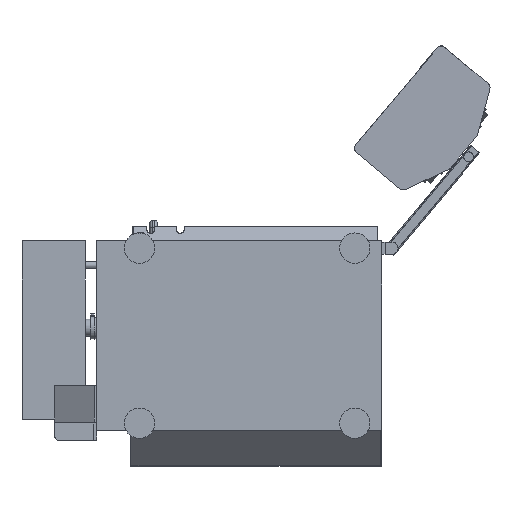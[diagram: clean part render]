
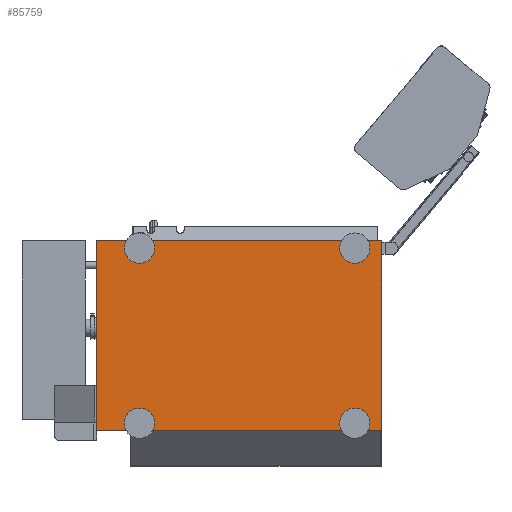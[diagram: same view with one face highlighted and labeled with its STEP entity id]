
A CAD part, front view. The second image highlights one B-rep face of the part: STEP entity #85759.
In plain terms, the highlighted planar face has unit normal (0, -1, 0).
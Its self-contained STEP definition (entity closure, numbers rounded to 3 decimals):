
#102 = CARTESIAN_POINT ( 'NONE',  ( -585., 94., -390. ) ) ;
#984 = VERTEX_POINT ( 'NONE', #51189 ) ;
#1999 = ORIENTED_EDGE ( 'NONE', *, *, #74220, .F. ) ;
#3167 = EDGE_CURVE ( 'NONE', #25639, #63284, #73688, .T. ) ;
#3369 = CARTESIAN_POINT ( 'NONE',  ( -410., 94., 360. ) ) ;
#4002 = CARTESIAN_POINT ( 'NONE',  ( -410., 94., -360. ) ) ;
#4260 = VERTEX_POINT ( 'NONE', #80539 ) ;
#4423 = DIRECTION ( 'NONE',  ( 0., 0., 1. ) ) ;
#5884 = CARTESIAN_POINT ( 'NONE',  ( -410., 94., -331. ) ) ;
#6790 = DIRECTION ( 'NONE',  ( 0., -1., 0. ) ) ;
#8930 = EDGE_LOOP ( 'NONE', ( #65463, #76995, #91438, #1999 ) ) ;
#9138 = CARTESIAN_POINT ( 'NONE',  ( 475., 94., -360. ) ) ;
#10404 = DIRECTION ( 'NONE',  ( 0., 0., 1. ) ) ;
#10487 = CARTESIAN_POINT ( 'NONE',  ( -410., 94., 360. ) ) ;
#11383 = CARTESIAN_POINT ( 'NONE',  ( -585., 94., -390. ) ) ;
#11547 = DIRECTION ( 'NONE',  ( 0., 0., 1. ) ) ;
#11625 = EDGE_CURVE ( 'NONE', #4260, #61724, #19315, .T. ) ;
#15501 = VECTOR ( 'NONE', #32680, 1000. ) ;
#16441 = FACE_BOUND ( 'NONE', #94680, .T. ) ;
#16965 = FACE_BOUND ( 'NONE', #85277, .T. ) ;
#19315 = LINE ( 'NONE', #11383, #92854 ) ;
#20280 = CARTESIAN_POINT ( 'NONE',  ( 475., 94., -360. ) ) ;
#21996 = DIRECTION ( 'NONE',  ( 0., -1., 0. ) ) ;
#22295 = VERTEX_POINT ( 'NONE', #45385 ) ;
#23547 = CIRCLE ( 'NONE', #86659, 29. ) ;
#24932 = DIRECTION ( 'NONE',  ( 0., 0., 1. ) ) ;
#25062 = AXIS2_PLACEMENT_3D ( 'NONE', #9138, #73693, #99253 ) ;
#25119 = EDGE_CURVE ( 'NONE', #86744, #92978, #60548, .T. ) ;
#25639 = VERTEX_POINT ( 'NONE', #58061 ) ;
#25646 = ORIENTED_EDGE ( 'NONE', *, *, #27639, .F. ) ;
#26918 = EDGE_CURVE ( 'NONE', #48193, #73378, #71349, .T. ) ;
#26922 = EDGE_CURVE ( 'NONE', #63284, #25639, #93105, .T. ) ;
#26945 = DIRECTION ( 'NONE',  ( 0., 0., 1. ) ) ;
#27639 = EDGE_CURVE ( 'NONE', #37105, #984, #60826, .T. ) ;
#29053 = CARTESIAN_POINT ( 'NONE',  ( 585., 94., 390. ) ) ;
#29464 = DIRECTION ( 'NONE',  ( 0., -1., 0. ) ) ;
#29916 = EDGE_CURVE ( 'NONE', #984, #37105, #23547, .T. ) ;
#30574 = EDGE_LOOP ( 'NONE', ( #80603, #84502 ) ) ;
#30797 = DIRECTION ( 'NONE',  ( 0., 0., 1. ) ) ;
#31978 = DIRECTION ( 'NONE',  ( 1., 0., 0. ) ) ;
#32680 = DIRECTION ( 'NONE',  ( 1., 0., 0. ) ) ;
#36902 = EDGE_CURVE ( 'NONE', #92978, #86744, #89906, .T. ) ;
#37081 = DIRECTION ( 'NONE',  ( 0., -1., 0. ) ) ;
#37105 = VERTEX_POINT ( 'NONE', #52298 ) ;
#37886 = AXIS2_PLACEMENT_3D ( 'NONE', #4002, #37081, #11547 ) ;
#38709 = CARTESIAN_POINT ( 'NONE',  ( -410., 94., 331. ) ) ;
#38951 = AXIS2_PLACEMENT_3D ( 'NONE', #89025, #49434, #24932 ) ;
#39351 = DIRECTION ( 'NONE',  ( 0., 0., 1. ) ) ;
#40105 = CARTESIAN_POINT ( 'NONE',  ( 475., 94., 360. ) ) ;
#42309 = EDGE_CURVE ( 'NONE', #22295, #61268, #85777, .T. ) ;
#45385 = CARTESIAN_POINT ( 'NONE',  ( -410., 94., 389. ) ) ;
#46827 = ORIENTED_EDGE ( 'NONE', *, *, #3167, .F. ) ;
#48193 = VERTEX_POINT ( 'NONE', #58124 ) ;
#49434 = DIRECTION ( 'NONE',  ( 0., 1., 0. ) ) ;
#50148 = ORIENTED_EDGE ( 'NONE', *, *, #79205, .F. ) ;
#50825 = DIRECTION ( 'NONE',  ( 0., -1., 0. ) ) ;
#51189 = CARTESIAN_POINT ( 'NONE',  ( 475., 94., -331. ) ) ;
#52298 = CARTESIAN_POINT ( 'NONE',  ( 475., 94., -389. ) ) ;
#52343 = DIRECTION ( 'NONE',  ( 0., 0., 1. ) ) ;
#54793 = CARTESIAN_POINT ( 'NONE',  ( 585., 94., -390. ) ) ;
#54935 = AXIS2_PLACEMENT_3D ( 'NONE', #3369, #50825, #10404 ) ;
#56941 = PLANE ( 'NONE',  #38951 ) ;
#57528 = ORIENTED_EDGE ( 'NONE', *, *, #29916, .F. ) ;
#58061 = CARTESIAN_POINT ( 'NONE',  ( -410., 94., -389. ) ) ;
#58124 = CARTESIAN_POINT ( 'NONE',  ( 585., 94., -390. ) ) ;
#60548 = CIRCLE ( 'NONE', #87929, 29. ) ;
#60826 = CIRCLE ( 'NONE', #25062, 29. ) ;
#61268 = VERTEX_POINT ( 'NONE', #38709 ) ;
#61656 = CARTESIAN_POINT ( 'NONE',  ( -585., 94., 390. ) ) ;
#61724 = VERTEX_POINT ( 'NONE', #61656 ) ;
#62610 = CARTESIAN_POINT ( 'NONE',  ( 475., 94., 389. ) ) ;
#63284 = VERTEX_POINT ( 'NONE', #5884 ) ;
#63587 = DIRECTION ( 'NONE',  ( 0., 0., 1. ) ) ;
#64439 = FACE_BOUND ( 'NONE', #92137, .T. ) ;
#64956 = FACE_OUTER_BOUND ( 'NONE', #8930, .T. ) ;
#65463 = ORIENTED_EDGE ( 'NONE', *, *, #11625, .F. ) ;
#65827 = AXIS2_PLACEMENT_3D ( 'NONE', #70318, #6790, #30797 ) ;
#65953 = AXIS2_PLACEMENT_3D ( 'NONE', #71072, #29464, #4423 ) ;
#66956 = DIRECTION ( 'NONE',  ( 0., -1., 0. ) ) ;
#67549 = VECTOR ( 'NONE', #39351, 1000. ) ;
#70318 = CARTESIAN_POINT ( 'NONE',  ( -410., 94., -360. ) ) ;
#70798 = ORIENTED_EDGE ( 'NONE', *, *, #26922, .F. ) ;
#71072 = CARTESIAN_POINT ( 'NONE',  ( 475., 94., 360. ) ) ;
#71349 = LINE ( 'NONE', #54793, #67549 ) ;
#73238 = LINE ( 'NONE', #102, #15501 ) ;
#73378 = VERTEX_POINT ( 'NONE', #29053 ) ;
#73688 = CIRCLE ( 'NONE', #37886, 29. ) ;
#73693 = DIRECTION ( 'NONE',  ( 0., -1., 0. ) ) ;
#74144 = VECTOR ( 'NONE', #31978, 1000. ) ;
#74220 = EDGE_CURVE ( 'NONE', #61724, #73378, #86999, .T. ) ;
#76995 = ORIENTED_EDGE ( 'NONE', *, *, #97618, .T. ) ;
#79205 = EDGE_CURVE ( 'NONE', #61268, #22295, #90771, .T. ) ;
#80539 = CARTESIAN_POINT ( 'NONE',  ( -585., 94., -390. ) ) ;
#80603 = ORIENTED_EDGE ( 'NONE', *, *, #25119, .F. ) ;
#82337 = AXIS2_PLACEMENT_3D ( 'NONE', #10487, #66956, #26945 ) ;
#84502 = ORIENTED_EDGE ( 'NONE', *, *, #36902, .F. ) ;
#85277 = EDGE_LOOP ( 'NONE', ( #50148, #87630 ) ) ;
#85759 = ADVANCED_FACE ( 'NONE', ( #16965, #64439, #16441, #102487, #64956 ), #56941, .F. ) ;
#85777 = CIRCLE ( 'NONE', #82337, 29. ) ;
#86659 = AXIS2_PLACEMENT_3D ( 'NONE', #20280, #101887, #94938 ) ;
#86744 = VERTEX_POINT ( 'NONE', #99866 ) ;
#86999 = LINE ( 'NONE', #103497, #74144 ) ;
#87630 = ORIENTED_EDGE ( 'NONE', *, *, #42309, .F. ) ;
#87929 = AXIS2_PLACEMENT_3D ( 'NONE', #40105, #21996, #63587 ) ;
#89025 = CARTESIAN_POINT ( 'NONE',  ( 0., 94., 0. ) ) ;
#89906 = CIRCLE ( 'NONE', #65953, 29. ) ;
#90771 = CIRCLE ( 'NONE', #54935, 29. ) ;
#91438 = ORIENTED_EDGE ( 'NONE', *, *, #26918, .T. ) ;
#92137 = EDGE_LOOP ( 'NONE', ( #46827, #70798 ) ) ;
#92854 = VECTOR ( 'NONE', #52343, 1000. ) ;
#92978 = VERTEX_POINT ( 'NONE', #62610 ) ;
#93105 = CIRCLE ( 'NONE', #65827, 29. ) ;
#94680 = EDGE_LOOP ( 'NONE', ( #25646, #57528 ) ) ;
#94938 = DIRECTION ( 'NONE',  ( 0., 0., 1. ) ) ;
#97618 = EDGE_CURVE ( 'NONE', #4260, #48193, #73238, .T. ) ;
#99253 = DIRECTION ( 'NONE',  ( 0., 0., 1. ) ) ;
#99866 = CARTESIAN_POINT ( 'NONE',  ( 475., 94., 331. ) ) ;
#101887 = DIRECTION ( 'NONE',  ( 0., -1., 0. ) ) ;
#102487 = FACE_BOUND ( 'NONE', #30574, .T. ) ;
#103497 = CARTESIAN_POINT ( 'NONE',  ( -585., 94., 390. ) ) ;
